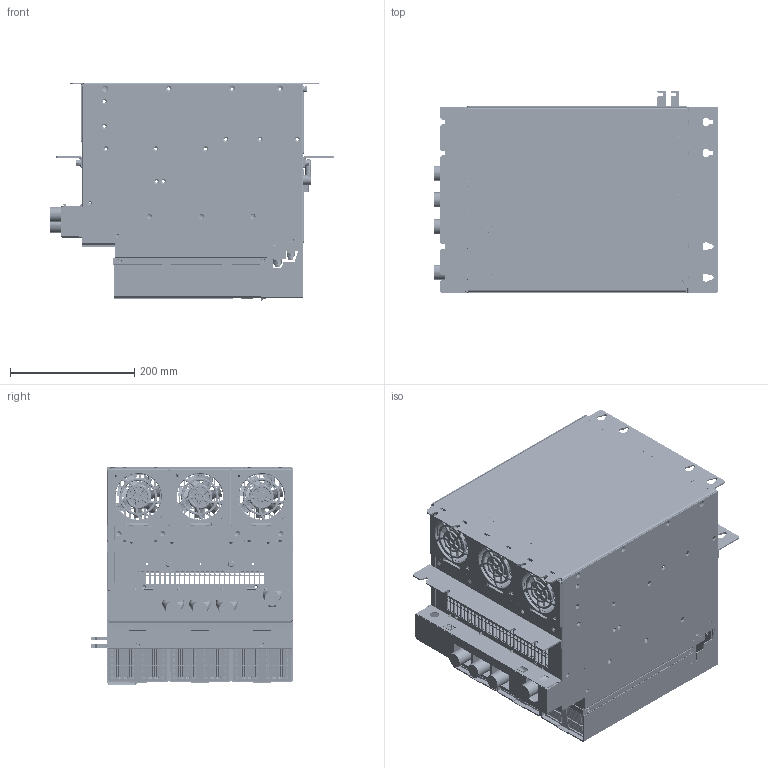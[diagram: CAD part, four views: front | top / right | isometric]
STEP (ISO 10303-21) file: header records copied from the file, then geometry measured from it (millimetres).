
FILE_DESCRIPTION((''),'2;1');
FILE_NAME('0-GD600-71-0160-4_ASM_ASM','2019-11-21T',('Administrator'),(''),'PRO/ENGINEER BY PARAMETRIC TECHNOLOGY CORPORATION, 2010280','PRO/ENGINEER BY PARAMETRIC TECHNOLOGY CORPORATION, 2010280','');
FILE_SCHEMA(('CONFIG_CONTROL_DESIGN'));
Products named in the file (110): 80340214_1; S-M3-ZC_1; 80340214_ASM_1_ASM; 80340214SY_ASM_1_ASM; 80385320_1; TPR-4-12-SL_1; GB12617_4_4X8_SL_1; 80385320_ASM_1_ASM; 80385324_ASM_1_ASM; 80385322_1; S-M5-ZC_1; 80385322_ASM_1_ASM; 80385328_1; S-M6-ZC_1; 80385328_ASM_1_ASM; 86051346_1; TPR-3-8-SL_1; 86051346_ASM_1_ASM; 61061310_ASM_1_ASM; 80310551_1; S-M4-ZC_1; 80310551_ASM_1_ASM; 80385321_1; 80385321_ASM_1_ASM; 80385323_1; 80385323_ASM_1_ASM; GB819_1_M4X8_1; 61210476_ASM_1_ASM; 80385327_1; SO-3D5M3-12-ZC_1; 80385327_ASM_1_ASM; 86051345_1; 86051345_ASM_1_ASM; 86051345SY_ASM_1_ASM; 80385326_1; 80385326_ASM_1_ASM; 80385326SY_ASM_1_ASM; 80385330_1; FH-M12-30-ZC_1; 80385330_ASM_1_ASM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
Assembly tree (262 placements, depth 7):
  0-GD600-71-0160-4_ASM_ASM
    0-GD600-71-0160-4_ASM_1_ASM
      41060108_ASM_1_ASM
        61061310_ASM_1_ASM
          80340214SY_ASM_1_ASM
            80340214_ASM_1_ASM
              80340214_1
              S-M3-ZC_1  x2
          80385320_ASM_1_ASM
            80385320_1
            TPR-4-12-SL_1  x6
            GB12617_4_4X8_SL_1  x2
          80385324_ASM_1_ASM  x2
          80385322_ASM_1_ASM
            80385322_1
            S-M5-ZC_1
          80385328_ASM_1_ASM
            80385328_1
            S-M6-ZC_1  x4
          86051346_ASM_1_ASM
            86051346_1
            S-M3-ZC_1  x2
            TPR-3-8-SL_1
          GB12617_4_4X8_SL_1  x4
        61210476_ASM_1_ASM
          80310551_ASM_1_ASM
            80310551_1
            S-M4-ZC_1  x8
          80385321_ASM_1_ASM
            80385321_1
            S-M5-ZC_1  x2
          80385323_ASM_1_ASM
            80385323_1
            S-M5-ZC_1  x3
            S-M4-ZC_1  x6
          GB12617_4_4X8_SL_1  x8
          GB819_1_M4X8_1  x6
        80385327_ASM_1_ASM
          80385327_1
          S-M3-ZC_1  x2
          SO-3D5M3-12-ZC_1  x2
        86051345SY_ASM_1_ASM
          86051345_ASM_1_ASM
            86051345_1
            S-M4-ZC_1
            S-M3-ZC_1  x4
        61061311_ASM_1_ASM
          80385326SY_ASM_1_ASM
            80385326_ASM_1_ASM
              80385326_1
              S-M3-ZC_1  x8
              S-M5-ZC_1  x4
          80385330_ASM_1_ASM
            80385330_1
            FH-M12-30-ZC_1
          GB12617_4_4X8_SL_1  x4
        GB9074_13_M5X12_1  x5
        GB819_1_M3X6_NI_1  x6
        86051216_1  x2
        WG-02-0004_1
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Bounding box: 457 x 325 x 351 mm (x, y, z)
Volume: 2620219.6 mm3; surface area: 2559841 mm2
Topology: 233 solids, 245 shells, 21389 faces, 59244 edges, 38793 vertices
Faces by surface type: plane 14094, cylinder 4614, cone 1666, torus 689, bspline 172, sphere 108, extrusion 46
Entity records: 379944 total; most frequent: CARTESIAN_POINT 74061, ORIENTED_EDGE 63483, DIRECTION 62370, EDGE_CURVE 31746, VECTOR 23128, LINE 23110, VERTEX_POINT 20865, AXIS2_PLACEMENT_3D 19621
